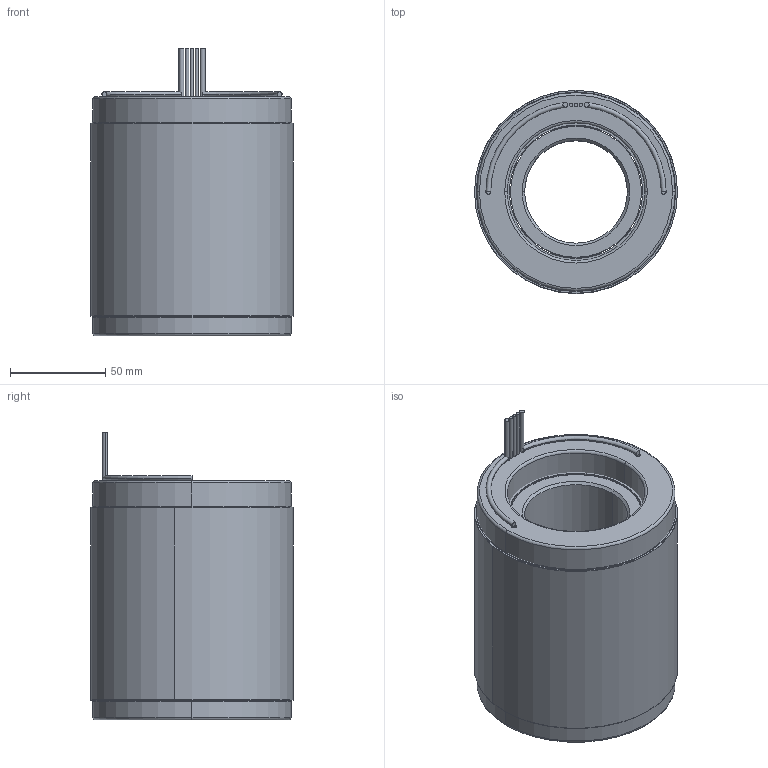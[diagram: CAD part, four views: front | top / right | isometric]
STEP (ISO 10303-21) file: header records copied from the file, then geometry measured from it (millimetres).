
FILE_DESCRIPTION (( 'STEP AP214' ), '1' );
FILE_NAME ('6100329-05.STEP', '2019-10-23T21:34:11', ( '' ), ( '' ), 'SwSTEP 2.0', 'SolidWorks 2016', '' );
FILE_SCHEMA (( 'AUTOMOTIVE_DESIGN' ));
Length unit declared in the file: millimetre
Products named in the file (10): 4400065-00; COMP4500536-XX (COIL)_COMP4500536-05 (COIL); 4250350-XX_4250350-05; 4500536-XX_4500536-05; 4600460-00; 4450153-XX_4450153-05; 4150160-XX_4150160-05; 6100329-05
Assembly tree (10 placements, depth 4):
  6100329-05
    4500536-XX_4500536-05
      4450153-XX_4450153-05
        4450153-XX_4450153-05
        4400065-00
        4400065-00
        4600460-00  x2
      COMP4500536-XX (COIL)_COMP4500536-05 (COIL)
    4250350-XX_4250350-05
      4150160-XX_4150160-05
Bounding box: 106.68 x 106.68 x 151.13 mm (x, y, z)
Volume: 1218703 mm3; surface area: 228315.7 mm2
Topology: 14 solids, 14 shells, 94 faces, 180 edges, 116 vertices
Faces by surface type: cylinder 48, plane 30, torus 12, cone 4
Entity records: 2735 total; most frequent: DIRECTION 496, CARTESIAN_POINT 380, ORIENTED_EDGE 336, AXIS2_PLACEMENT_3D 224, EDGE_CURVE 168, CIRCLE 120, VERTEX_POINT 108, EDGE_LOOP 102
